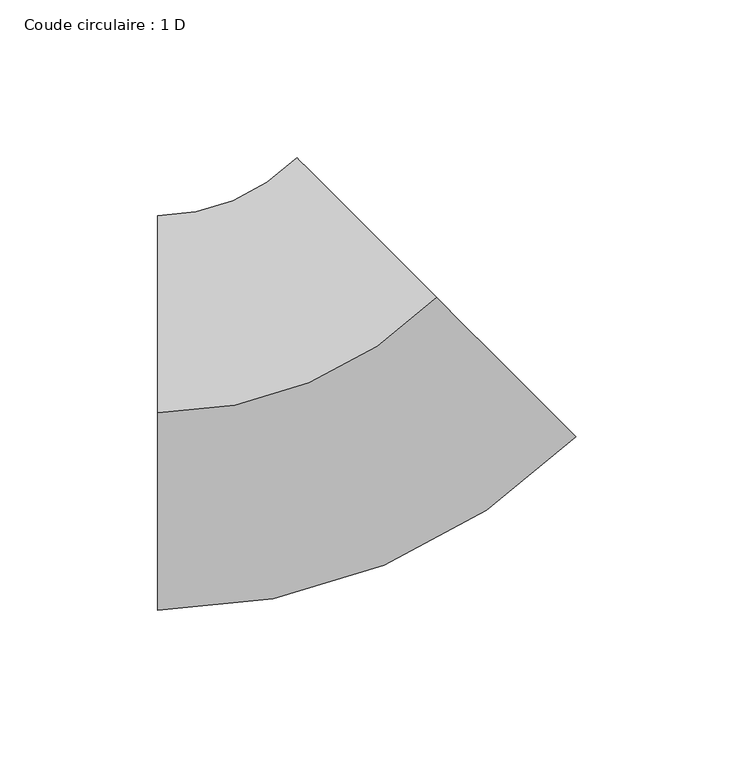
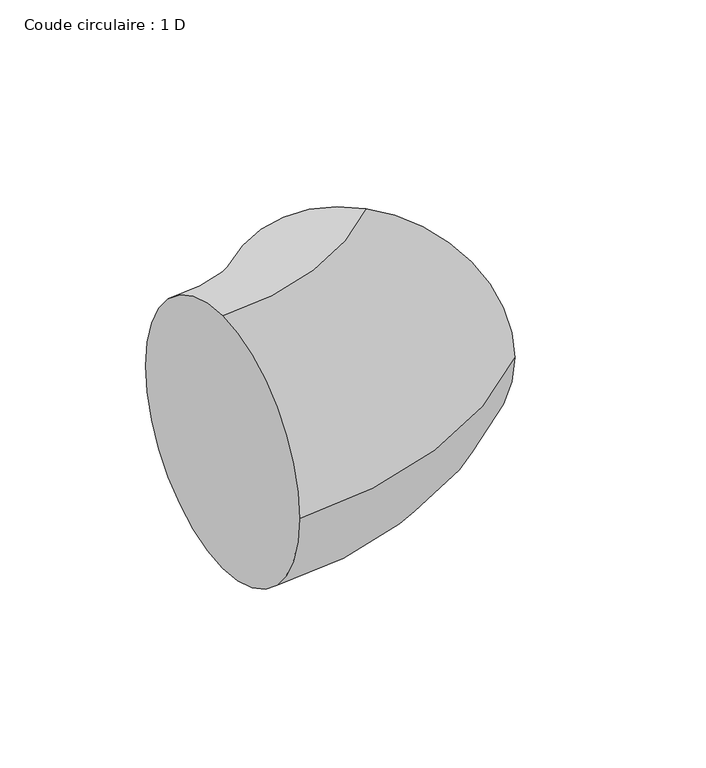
"""IFC4 building model written with IfcOpenShell, lengths in millimetres: duct fitting geometry, Coude circulaire : 1 D."""

import ifcopenshell
import ifcopenshell.guid

model = None  # the IFC model being written
_history = None  # IfcOwnerHistory: only IFC2X3 demands one
_inside = {}  # id of a spatial element -> (the spatial element, [elements in it])
_under = {}  # id of a project, library or spatial element -> (it, [spatial elements below it])
_declared = {}  # id of a project -> (the project, [libraries it declares])
_typed = {}  # id of a type object -> (the type object, [elements of that type])
_made_of = {}  # id of a material, layer set ... -> (it, [elements and type objects made of it])


def new_model(schema):
    """Start an empty IFC model of exactly this schema.

    Asked for "IFC4X3", IfcOpenShell would pick the latest addendum, in which some entities
    have other attributes; the version numbers below select the first issue.
    IFC2X3 requires an IfcOwnerHistory on every rooted entity: one is made here for all.
    """
    global model, _history
    if schema == "IFC4X3":
        model = ifcopenshell.file(schema_version=(4, 3, 0, 0))
    else:
        model = ifcopenshell.file(schema=schema)
    _inside.clear()
    _under.clear()
    _declared.clear()
    _typed.clear()
    _made_of.clear()
    _history = None
    if model.schema == "IFC2X3":
        org = make("IfcOrganization", Name="unknown")
        user = make(
            "IfcPersonAndOrganization",
            ThePerson=make("IfcPerson", FamilyName="unknown"),
            TheOrganization=org,
        )
        app = make(
            "IfcApplication",
            ApplicationDeveloper=org,
            Version="unknown",
            ApplicationFullName="unknown",
            ApplicationIdentifier="unknown",
        )
        _history = make(
            "IfcOwnerHistory",
            OwningUser=user,
            OwningApplication=app,
            ChangeAction="ADDED",
            CreationDate=0,
        )
    return model


def make(cls, **values):
    """One entity of the class cls with the attributes given. An attribute that is None is left unset."""
    return model.create_entity(
        cls, **{name: value for name, value in values.items() if value is not None}
    )


def rooted(cls, **values):
    """An entity with a GlobalId (a new one), such as an element, a storey or a relation."""
    return make(cls, GlobalId=ifcopenshell.guid.new(), OwnerHistory=_history, **values)


def si_unit(unit_type, name, prefix=None):
    """IfcSIUnit, for example si_unit("LENGTHUNIT", "METRE", prefix="MILLI")."""
    return make("IfcSIUnit", UnitType=unit_type, Prefix=prefix, Name=name)


def assignment(units):
    """IfcUnitAssignment: the units of a project."""
    return None if units is None else make("IfcUnitAssignment", Units=units)


def point(xyz):
    """IfcCartesianPoint."""
    return None if xyz is None else make("IfcCartesianPoint", Coordinates=xyz)


def direction(xyz):
    """IfcDirection."""
    return None if xyz is None else make("IfcDirection", DirectionRatios=xyz)


def frame(location, z_axis=None, x_axis=None):
    """IfcAxis2Placement3D, a coordinate frame: its origin and axes. An axis left out is left unset."""
    return make(
        "IfcAxis2Placement3D",
        Location=point(location),
        Axis=direction(z_axis),
        RefDirection=direction(x_axis),
    )


def origin():
    """The frame at (0, 0, 0) with its axes left unset."""
    return frame((0.0, 0.0, 0.0))


def place(relative_to, where):
    """IfcLocalPlacement: puts the frame where relative to a parent placement (None: the world)."""
    return make(
        "IfcLocalPlacement", PlacementRelTo=relative_to, RelativePlacement=where
    )


def context(
    kind, dimensions, precision=None, world=None, true_north=None, identifier=None
):
    """IfcGeometricRepresentationContext, for example the 3D "Model" context."""
    return make(
        "IfcGeometricRepresentationContext",
        ContextIdentifier=identifier,
        ContextType=kind,
        CoordinateSpaceDimension=dimensions,
        Precision=precision,
        WorldCoordinateSystem=world,
        TrueNorth=true_north,
    )


def project(units=None, contexts=None):
    """IfcProject with its units and contexts."""
    return rooted(
        "IfcProject",
        Name="project",
        RepresentationContexts=contexts,
        UnitsInContext=assignment(units),
    )


def spatial(cls, under=None, at=None, **own):
    """A site, building, storey or space (cls), placed at a placement, below another one or the project."""
    s = rooted(cls, ObjectPlacement=at, **own)
    if under is not None:
        _under.setdefault(under.id(), (under, []))[1].append(s)
    return s


def circle_curve(where, radius):
    """IfcCircle in the frame where."""
    return make("IfcCircle", Position=where, Radius=radius)


def ellipse_curve(where, semi_axis1, semi_axis2):
    """IfcEllipse in the frame where."""
    return make(
        "IfcEllipse", Position=where, SemiAxis1=semi_axis1, SemiAxis2=semi_axis2
    )


def trimmed(basis, trim1, trim2, sense, master):
    """IfcTrimmedCurve: the piece of a basis curve between two trims."""
    return make(
        "IfcTrimmedCurve",
        BasisCurve=basis,
        Trim1=trim1,
        Trim2=trim2,
        SenseAgreement=sense,
        MasterRepresentation=master,
    )


def shape(context_of_items, identifier, shape_type, items):
    """IfcShapeRepresentation: the items that make up one representation, for example the "Body"."""
    return make(
        "IfcShapeRepresentation",
        ContextOfItems=context_of_items,
        RepresentationIdentifier=identifier,
        RepresentationType=shape_type,
        Items=items,
    )


def source(mapping_origin, context_of_items, identifier, shape_type, items):
    """IfcRepresentationMap: a shape defined once, which mapped items show again and again."""
    return make(
        "IfcRepresentationMap",
        MappingOrigin=mapping_origin,
        MappedRepresentation=shape(context_of_items, identifier, shape_type, items),
    )


def transform(
    local_origin,
    x_axis=None,
    y_axis=None,
    z_axis=None,
    scale=None,
    scale2=None,
    scale3=None,
    uniform=True,
):
    """IfcCartesianTransformationOperator3D, or its non-uniform kind. x_axis, y_axis, z_axis: its Axis1, 2, 3."""
    if uniform:
        return make(
            "IfcCartesianTransformationOperator3D",
            Axis1=direction(x_axis),
            Axis2=direction(y_axis),
            LocalOrigin=point(local_origin),
            Scale=scale,
            Axis3=direction(z_axis),
        )
    return make(
        "IfcCartesianTransformationOperator3DnonUniform",
        Axis1=direction(x_axis),
        Axis2=direction(y_axis),
        LocalOrigin=point(local_origin),
        Scale=scale,
        Axis3=direction(z_axis),
        Scale2=scale2,
        Scale3=scale3,
    )


def mapped(mapping_source, mapping_target):
    """IfcMappedItem: shows the shape of a source again, moved by a transform."""
    return make(
        "IfcMappedItem", MappingSource=mapping_source, MappingTarget=mapping_target
    )


def made_of(thing, what):
    """Note that an element or type object is made of a material, layer set ...; save() writes the relation."""
    if what is not None:
        _made_of.setdefault(what.id(), (what, []))[1].append(thing)
    return thing


def element(
    cls,
    number,
    at=None,
    inside=None,
    cuts=None,
    type_object=None,
    material=None,
    context=None,
    identifier="Body",
    shape_type=None,
    held_by="IfcProductDefinitionShape",
    body=None,
    shapes=None,
    **own,
):
    """One element of the class cls, such as IfcWall. Its Tag is "e" and its number.

    at: its placement. inside: the storey or other place that contains it. cuts: it is an
    opening in that element (IfcRelVoidsElement). A single representation is given by context,
    identifier, shape_type and body (its items); several are given by shapes. held_by: the class
    of the entity that holds the representations. save() writes the other relations.
    """
    e = rooted(cls, Tag="e%d" % number, ObjectPlacement=at, **own)
    if body is not None:
        shapes = [shape(context, identifier, shape_type, body)]
    if shapes is not None:
        e.Representation = make(held_by, Representations=shapes)
    if inside is not None:
        _inside.setdefault(inside.id(), (inside, []))[1].append(e)
    if cuts is not None:
        rooted(
            "IfcRelVoidsElement", RelatingBuildingElement=cuts, RelatedOpeningElement=e
        )
    if type_object is not None:
        _typed.setdefault(type_object.id(), (type_object, []))[1].append(e)
    return made_of(e, material)


def aggregate(whole, parts):
    """IfcRelAggregates: a whole, such as a stair, and the parts it consists of."""
    return rooted("IfcRelAggregates", RelatingObject=whole, RelatedObjects=parts)


def save(model, path):
    """Write the relations noted so far, then the file.

    IfcRelAggregates (storeys below a building ...), IfcRelContainedInSpatialStructure (elements
    in a storey), IfcRelDefinesByType, IfcRelAssociatesMaterial and IfcRelDeclares: one each for
    every whole, place, type object, material and project.
    """
    for whole, parts in _under.values():
        aggregate(whole, parts)
    for where, things in _inside.values():
        rooted(
            "IfcRelContainedInSpatialStructure",
            RelatedElements=things,
            RelatingStructure=where,
        )
    for kind, things in _typed.values():
        rooted("IfcRelDefinesByType", RelatedObjects=things, RelatingType=kind)
    for what, things in _made_of.values():
        rooted("IfcRelAssociatesMaterial", RelatedObjects=things, RelatingMaterial=what)
    for by, libraries in _declared.values():
        rooted("IfcRelDeclares", RelatingContext=by, RelatedDefinitions=libraries)
    model.write(path)


def plane_surface(at):
    """IfcPlane: the flat surface through the origin of the frame at, square to its z axis."""
    return make("IfcPlane", Position=at)


def revolved_surface(curve, axis_point, axis_direction):
    """IfcSurfaceOfRevolution: the curve turned about the line through axis_point along axis_direction."""
    return make(
        "IfcSurfaceOfRevolution",
        SweptCurve=make("IfcArbitraryOpenProfileDef", ProfileType="CURVE", Curve=curve),
        AxisPosition=make("IfcAxis1Placement", Location=point(axis_point), Axis=direction(axis_direction)),
    )


def advanced_brep(points, edges, surfaces, faces):
    """IfcAdvancedBrep: a solid bounded by faces that lie on surfaces and meet in shared edges.

    An edge is (start, end): straight between two places in points (the first is 0);
    or (start, end, curve); or (start, end, curve, False) where it runs against its curve.
    A face is (place in surfaces, loops), or (place, loops, False) where it looks against
    its surface's normal. A loop lists edges by number (the first is 1), with a minus sign
    where the edge is run from its end to its start. The first loop is the outer one.
    """
    corners = [point(p) for p in points]
    vertices = [make("IfcVertexPoint", VertexGeometry=c) for c in corners]
    made = []
    for start, end, *more in edges:
        made.append(
            make(
                "IfcEdgeCurve",
                EdgeStart=vertices[start],
                EdgeEnd=vertices[end],
                EdgeGeometry=more[0] if more else make("IfcPolyline", Points=[corners[start], corners[end]]),
                SameSense=more[1] if len(more) > 1 else True,
            )
        )
    hull = []
    for where, loops, *sense in faces:
        bounds = []
        for j, loop in enumerate(loops):
            ring = [make("IfcOrientedEdge", EdgeElement=made[abs(k) - 1], Orientation=k > 0) for k in loop]
            bounds.append(
                make(
                    "IfcFaceOuterBound" if j == 0 else "IfcFaceBound",
                    Bound=make("IfcEdgeLoop", EdgeList=ring),
                    Orientation=True,
                )
            )
        hull.append(make("IfcAdvancedFace", Bounds=bounds, FaceSurface=surfaces[where], SameSense=sense[0] if sense else True))
    return make("IfcAdvancedBrep", Outer=make("IfcClosedShell", CfsFaces=hull))


def coude_circulaire_1_d_1d3d167f(model_context):
    return source(origin(), model_context, "Body", "AdvancedBrep", [
        advanced_brep(
        [(-51.7766953, 0.0, 62.5), (-51.7766953, 62.5, 0.0), (-51.7766953, 0.0, -62.5), (-51.7766953, -62.5, 0.0), (36.6116524, 36.6116524, 62.5), (80.8058262, -7.5825215, 0.0), (36.6116524, 36.6116524, -62.5), (-7.5825215, 80.8058262, 0.0)],
        [
            (0, 1, circle_curve(frame((-51.7766953, 0.0, 0.0), z_axis=(-1.0, 0.0, 0.0), x_axis=(0.0, 1.0, 0.0)), 62.5)),
            (1, 2, circle_curve(frame((-51.7766953, 0.0, 0.0), z_axis=(-1.0, 0.0, 0.0), x_axis=(0.0, 1.0, 0.0)), 62.5)),
            (2, 3, circle_curve(frame((-51.7766953, 0.0, 0.0), z_axis=(-1.0, 0.0, 0.0), x_axis=(0.0, 1.0, 0.0)), 62.5)),
            (3, 0, circle_curve(frame((-51.7766953, 0.0, 0.0), z_axis=(-1.0, 0.0, 0.0), x_axis=(0.0, 1.0, 0.0)), 62.5)),
            (4, 5, circle_curve(frame((36.6116524, 36.6116524, 0.0), z_axis=(0.7071067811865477, 0.7071067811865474, 0.0), x_axis=(-0.7071067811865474, 0.7071067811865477, 0.0)), 62.5)),
            (5, 6, circle_curve(frame((36.6116524, 36.6116524, 0.0), z_axis=(0.7071067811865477, 0.7071067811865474, 0.0), x_axis=(-0.7071067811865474, 0.7071067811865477, 0.0)), 62.5)),
            (6, 7, circle_curve(frame((36.6116524, 36.6116524, 0.0), z_axis=(0.7071067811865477, 0.7071067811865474, 0.0), x_axis=(-0.7071067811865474, 0.7071067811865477, 0.0)), 62.5)),
            (7, 4, circle_curve(frame((36.6116524, 36.6116524, 0.0), z_axis=(0.7071067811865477, 0.7071067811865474, 0.0), x_axis=(-0.7071067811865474, 0.7071067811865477, 0.0)), 62.5)),
            (7, 1, circle_curve(frame((-51.7766953, 125.0, 0.0), z_axis=(0.0, 0.0, -1.0), x_axis=(0.0, -1.0, 0.0)), 62.5)),
            (0, 4, circle_curve(frame((-51.7766953, 125.0, 62.5), z_axis=(0.0, 0.0, 1.0), x_axis=(0.0, -1.0, 0.0)), 125.0)),
            (6, 2, circle_curve(frame((-51.7766953, 125.0, -62.5), z_axis=(0.0, 0.0, -1.0), x_axis=(0.0, -1.0, 0.0)), 125.0)),
            (5, 3, circle_curve(frame((-51.7766953, 125.0, 0.0), z_axis=(0.0, 0.0, -1.0), x_axis=(0.0, -1.0, 0.0)), 187.5)),
        ],
        [
            plane_surface(frame((-51.7766953, 0.0, 0.0), z_axis=(-1.0, 0.0, 0.0), x_axis=(0.0, 0.0, 1.0))),
            plane_surface(frame((36.6116524, 36.6116524, 0.0), z_axis=(0.7071067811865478, 0.7071067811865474, 0.0), x_axis=(0.0, 0.0, 1.0))),
            revolved_surface(trimmed(ellipse_curve(frame((-51.7766953, 0.0, 0.0), z_axis=(-1.0, 0.0, 0.0), x_axis=(0.0, 1.0, 0.0)), 62.5, 62.5), [point((-51.7766953, 0.0, 62.5))], [point((-51.7766953, 62.5, 0.0))], True, "CARTESIAN"), (-51.7766953, 125.0, 0.0), (0.0, 0.0, 1.0)),
            revolved_surface(trimmed(ellipse_curve(frame((-51.7766953, 0.0, 0.0), z_axis=(-1.0, 0.0, 0.0), x_axis=(0.0, 1.0, 0.0)), 62.5, 62.5), [point((-51.7766953, 62.5, 0.0))], [point((-51.7766953, 0.0, -62.5))], True, "CARTESIAN"), (-51.7766953, 125.0, 0.0), (0.0, 0.0, 1.0)),
            revolved_surface(trimmed(ellipse_curve(frame((-51.7766953, 0.0, 0.0), z_axis=(-1.0, 0.0, 0.0), x_axis=(0.0, 1.0, 0.0)), 62.5, 62.5), [point((-51.7766953, 0.0, -62.5))], [point((-51.7766953, -62.5, 0.0))], True, "CARTESIAN"), (-51.7766953, 125.0, 0.0), (0.0, 0.0, 1.0)),
            revolved_surface(trimmed(ellipse_curve(frame((-51.7766953, 0.0, 0.0), z_axis=(-1.0, 0.0, 0.0), x_axis=(0.0, 1.0, 0.0)), 62.5, 62.5), [point((-51.7766953, -62.5, 0.0))], [point((-51.7766953, 0.0, 62.5))], True, "CARTESIAN"), (-51.7766953, 125.0, 0.0), (0.0, 0.0, 1.0)),
        ],
        [
            (0, [[1, 2, 3, 4]]),
            (1, [[5, 6, 7, 8]]),
            (2, [[9, -1, 10, -8]]),
            (3, [[11, -2, -9, -7]]),
            (4, [[12, -3, -11, -6]]),
            (5, [[-10, -4, -12, -5]]),
        ],
    ),
    ])


if __name__ == "__main__":
    model = new_model("IFC4")
    model_context = context("Model", 3, world=origin())
    ifc_project = project(units=[si_unit("LENGTHUNIT", "METRE", prefix="MILLI")], contexts=[model_context])
    site = spatial("IfcSite", under=ifc_project)
    building = spatial("IfcBuilding", under=site)
    placement = place(None, origin())
    coude_circulaire_1_d_shape = coude_circulaire_1_d_1d3d167f(model_context)
    element("IfcDuctFitting", 1, ObjectType="Coude circulaire : 1 D", at=placement, inside=building, context=model_context, shape_type="MappedRepresentation", body=[
        mapped(coude_circulaire_1_d_shape, transform((0.0, 0.0, 0.0), x_axis=(1.0, 0.0, 0.0), y_axis=(0.0, 1.0, 0.0), z_axis=(0.0, 0.0, 1.0))),
    ])
    save(model, "model.ifc")
